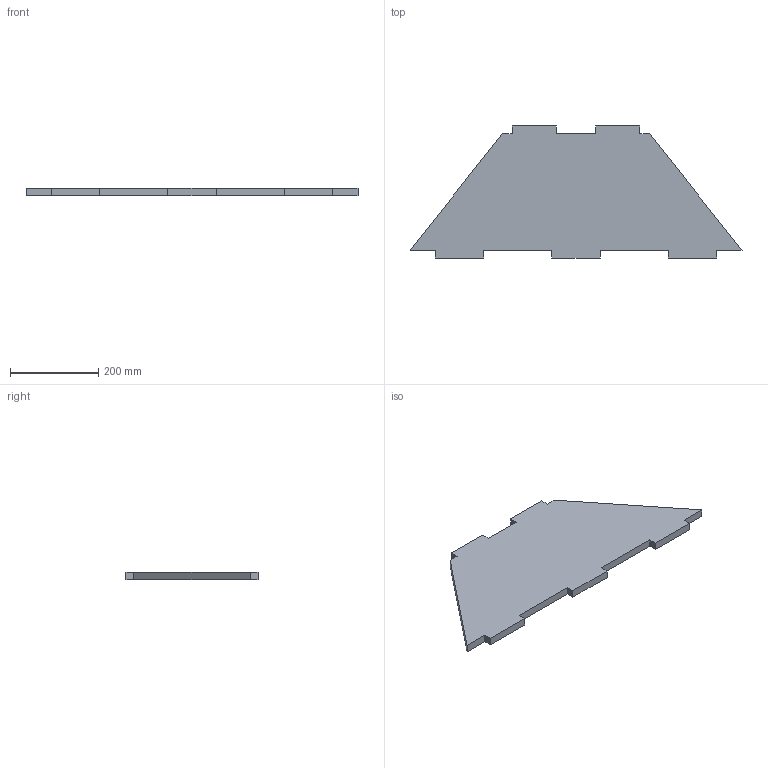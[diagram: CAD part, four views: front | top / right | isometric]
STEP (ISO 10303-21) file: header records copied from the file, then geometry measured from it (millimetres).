
FILE_DESCRIPTION(('Open CASCADE Model'),'2;1');
FILE_NAME('Open CASCADE Shape Model','2026-09-27T09:04:21',('Author'),( 'Open CASCADE'),'Open CASCADE STEP processor 7.9','Open CASCADE 7.9' ,'Unknown');
FILE_SCHEMA(('AUTOMOTIVE_DESIGN { 1 0 10303 214 1 1 1 1 }'));
Length unit declared in the file: millimetre
Products named in the file (1): Open CASCADE STEP translator 7.9 5
Bounding box: 754 x 300 x 18 mm (x, y, z)
Volume: 2756805.9 mm3; surface area: 341279.9 mm2
Topology: 1 solids, 1 shells, 26 faces, 72 edges, 48 vertices
Faces by surface type: plane 26
Entity records: 1762 total; most frequent: CARTESIAN_POINT 291, DIRECTION 270, LINE 216, VECTOR 216, ORIENTED_EDGE 144, PCURVE 144, DEFINITIONAL_REPRESENTATION 144, EDGE_CURVE 72
